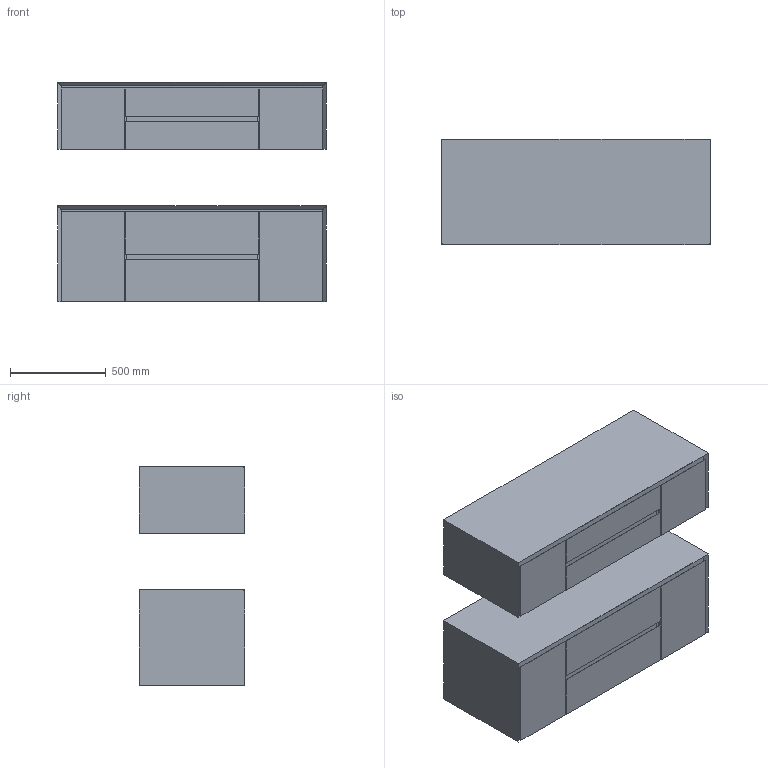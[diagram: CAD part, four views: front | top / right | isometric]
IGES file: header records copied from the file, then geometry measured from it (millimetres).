
Global section: file name: \\Archi-NAS\Comune\X GIOVANNI\MOBILI\EVERMOTION\EVERMOTION_4.igs; native system: Rhinoceros ( Feb 23 2021 ); preprocessor: Trout Lake IGES 012 Feb 23 2021; date: 230607.160205; units: millimetre
Bounding box: 1400 x 550 x 1143.94 mm (x, y, z)
Surface area: 21211933.7 mm2 (no closed solid volume)
Topology: 0 solids, 0 shells, 380 faces, 1840 edges, 1840 vertices
Faces by surface type: bspline 380
